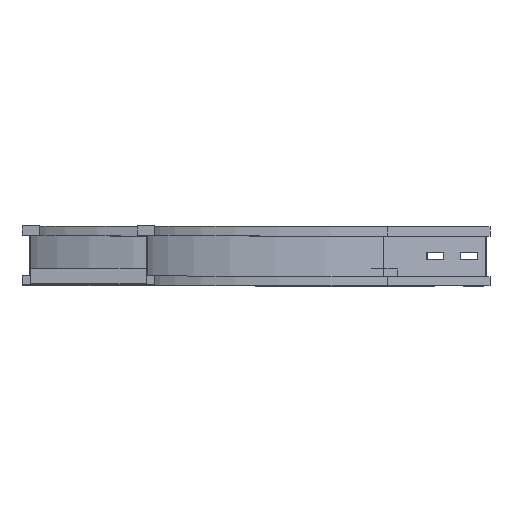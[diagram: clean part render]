
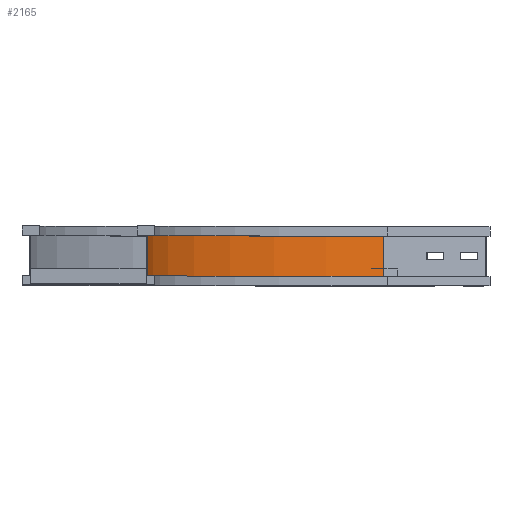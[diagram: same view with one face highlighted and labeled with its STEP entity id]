
A CAD part, top view. The second image highlights one B-rep face of the part: STEP entity #2165.
In plain terms, the highlighted cylindrical face has radius 600 mm (diameter 1200 mm), a partial arc.
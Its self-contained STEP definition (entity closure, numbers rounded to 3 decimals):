
#89 = AXIS2_PLACEMENT_3D ( 'NONE', #2637, #2600, #2380 ) ;
#205 = VECTOR ( 'NONE', #583, 1000. ) ;
#239 = VERTEX_POINT ( 'NONE', #586 ) ;
#264 = AXIS2_PLACEMENT_3D ( 'NONE', #3282, #430, #3387 ) ;
#310 = CARTESIAN_POINT ( 'NONE',  ( -9., 63., -150. ) ) ;
#351 = ORIENTED_EDGE ( 'NONE', *, *, #699, .F. ) ;
#430 = DIRECTION ( 'NONE',  ( 0., -1., 0. ) ) ;
#583 = DIRECTION ( 'NONE',  ( 0., 1., 0. ) ) ;
#586 = CARTESIAN_POINT ( 'NONE',  ( 291., 12., -669.615 ) ) ;
#699 = EDGE_CURVE ( 'NONE', #1722, #3185, #1800, .T. ) ;
#829 = EDGE_CURVE ( 'NONE', #239, #3185, #1251, .T. ) ;
#931 = CARTESIAN_POINT ( 'NONE',  ( -9., 12., -150. ) ) ;
#946 = ORIENTED_EDGE ( 'NONE', *, *, #829, .T. ) ;
#1188 = FACE_OUTER_BOUND ( 'NONE', #3386, .T. ) ;
#1251 = LINE ( 'NONE', #2309, #2144 ) ;
#1444 = EDGE_CURVE ( 'NONE', #2209, #239, #2258, .T. ) ;
#1535 = CYLINDRICAL_SURFACE ( 'NONE', #264, 600. ) ;
#1709 = CARTESIAN_POINT ( 'NONE',  ( 591., 63., -150. ) ) ;
#1722 = VERTEX_POINT ( 'NONE', #310 ) ;
#1799 = ORIENTED_EDGE ( 'NONE', *, *, #1444, .T. ) ;
#1800 = CIRCLE ( 'NONE', #2792, 600. ) ;
#1825 = CARTESIAN_POINT ( 'NONE',  ( 291., 63., -669.615 ) ) ;
#2049 = EDGE_CURVE ( 'NONE', #2209, #1722, #2660, .T. ) ;
#2144 = VECTOR ( 'NONE', #3364, 1000. ) ;
#2165 = ADVANCED_FACE ( 'NONE', ( #1188 ), #1535, .F. ) ;
#2209 = VERTEX_POINT ( 'NONE', #931 ) ;
#2258 = CIRCLE ( 'NONE', #89, 600. ) ;
#2309 = CARTESIAN_POINT ( 'NONE',  ( 291., 12., -669.615 ) ) ;
#2380 = DIRECTION ( 'NONE',  ( -1., 0., 0. ) ) ;
#2600 = DIRECTION ( 'NONE',  ( 0., -1., 0. ) ) ;
#2637 = CARTESIAN_POINT ( 'NONE',  ( 591., 12., -150. ) ) ;
#2660 = LINE ( 'NONE', #3202, #205 ) ;
#2753 = DIRECTION ( 'NONE',  ( -1., 0., 0. ) ) ;
#2792 = AXIS2_PLACEMENT_3D ( 'NONE', #1709, #2806, #2753 ) ;
#2806 = DIRECTION ( 'NONE',  ( 0., -1., 0. ) ) ;
#2880 = ORIENTED_EDGE ( 'NONE', *, *, #2049, .F. ) ;
#3185 = VERTEX_POINT ( 'NONE', #1825 ) ;
#3202 = CARTESIAN_POINT ( 'NONE',  ( -9., 12., -150. ) ) ;
#3282 = CARTESIAN_POINT ( 'NONE',  ( 591., 0., -150. ) ) ;
#3364 = DIRECTION ( 'NONE',  ( 0., 1., 0. ) ) ;
#3386 = EDGE_LOOP ( 'NONE', ( #351, #2880, #1799, #946 ) ) ;
#3387 = DIRECTION ( 'NONE',  ( 0., 0., -1. ) ) ;
